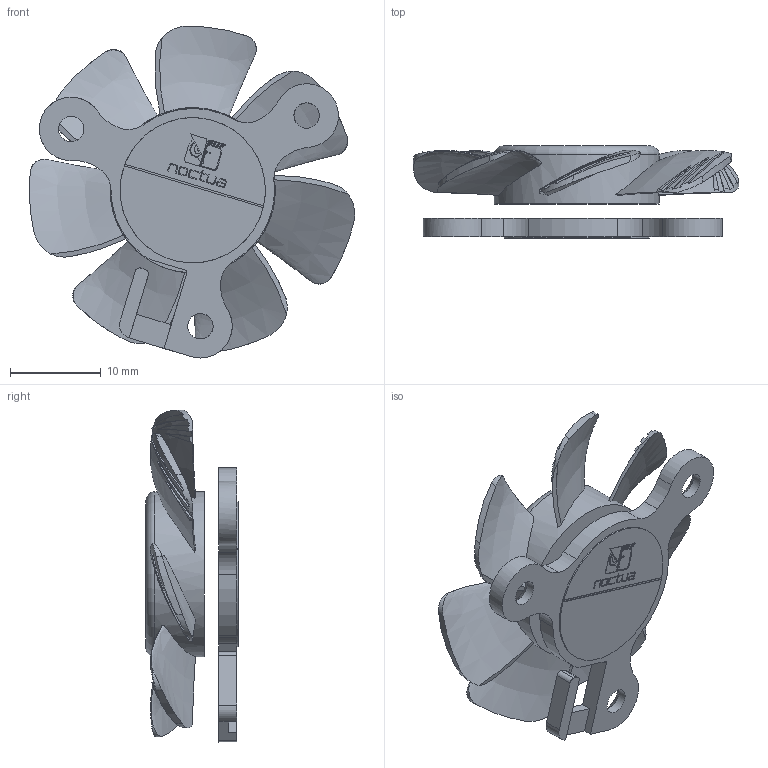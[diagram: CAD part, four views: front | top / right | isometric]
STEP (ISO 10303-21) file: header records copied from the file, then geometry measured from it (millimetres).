
FILE_DESCRIPTION(/* description */ ('140mm Desk Fan'),/* implementation_level */ '2;1');
FILE_NAME(/* name */ 'NF-A4x10_noFrame_public-cad',/* time_stamp */ '2026-04-21T15:56:21+02:00',/* author */ ('Andreas'),/* organization */ ('Rascom'),/* preprocessor_version */ 'ST-DEVELOPER v18.102',/* originating_system */ 'Solid Edge',/* authorisation */ 'Unknown');
FILE_SCHEMA (('AUTOMOTIVE_DESIGN {1 0 10303 214 3 1 1}'));
Length unit declared in the file: millimetre
Products named in the file (4): NF-A4x10_noFrame_public-cad; NF-A4x10_noFrame_frame_public; NF-A4x10_noFrame_impeller_public; Fan-Label-D16mm-Regular
Assembly tree (3 placements, depth 2):
  NF-A4x10_noFrame_public-cad
    NF-A4x10_noFrame_frame_public
    NF-A4x10_noFrame_impeller_public
    Fan-Label-D16mm-Regular
Bounding box: 35.84 x 10.15 x 36.56 mm (x, y, z)
Volume: 2944.4 mm3; surface area: 3888.9 mm2
Topology: 3 solids, 3 shells, 311 faces, 857 edges, 572 vertices
Faces by surface type: cylinder 128, plane 126, bspline 50, cone 6, torus 1
Full cylindrical faces by diameter (mm): 2.8 x3, 16 x2, 18.2 x1
Entity records: 15241 total; most frequent: CARTESIAN_POINT 6674, ORIENTED_EDGE 1702, DIRECTION 1259, EDGE_CURVE 851, VERTEX_POINT 574, LINE 437, VECTOR 437, AXIS2_PLACEMENT_3D 411
